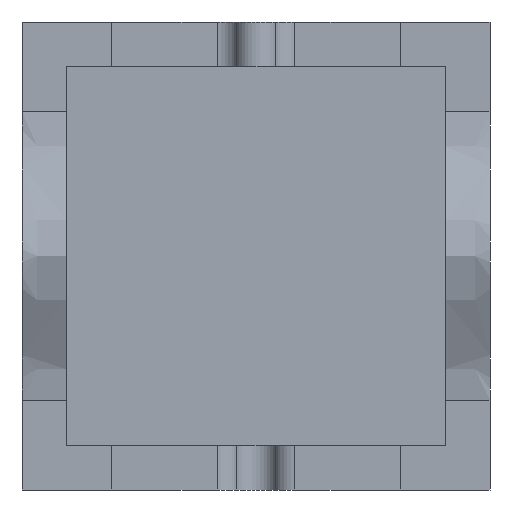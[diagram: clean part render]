
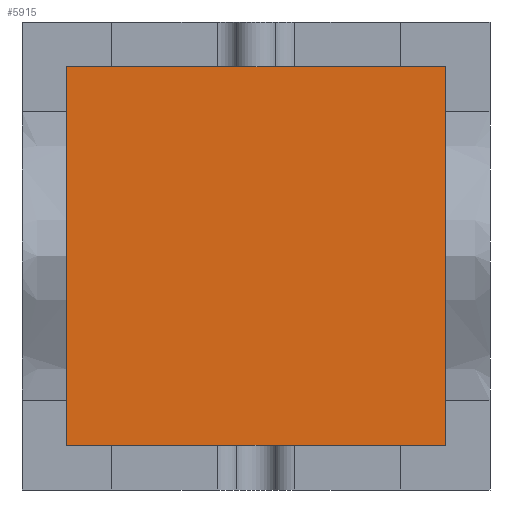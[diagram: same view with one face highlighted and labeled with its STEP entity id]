
A CAD part, front view. The second image highlights one B-rep face of the part: STEP entity #5915.
In plain terms, the highlighted planar face has unit normal (0, -1, 0).
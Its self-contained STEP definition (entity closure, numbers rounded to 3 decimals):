
#5789=CARTESIAN_POINT('Vertex',(-20.,-30.,-20.)) ;
#5794=CARTESIAN_POINT('Line Origine',(-20.,-30.,64.5)) ;
#5798=CARTESIAN_POINT('Vertex',(-20.,-30.,149.)) ;
#5825=CARTESIAN_POINT('Line Origine',(64.5,-30.,149.)) ;
#5829=CARTESIAN_POINT('Vertex',(149.,-30.,149.)) ;
#5856=CARTESIAN_POINT('Line Origine',(149.,-30.,64.5)) ;
#5860=CARTESIAN_POINT('Vertex',(149.,-30.,-20.)) ;
#5887=CARTESIAN_POINT('Line Origine',(64.5,-30.,-20.)) ;
#5904=CARTESIAN_POINT('Axis2P3D Location',(0.,-30.,0.)) ;
#5795=DIRECTION('Vector Direction',(0.,0.,-1.)) ;
#5826=DIRECTION('Vector Direction',(1.,0.,0.)) ;
#5857=DIRECTION('Vector Direction',(0.,0.,1.)) ;
#5888=DIRECTION('Vector Direction',(-1.,0.,0.)) ;
#5905=DIRECTION('Axis2P3D Direction',(0.,1.,0.)) ;
#5906=DIRECTION('Axis2P3D XDirection',(-1.,0.,0.)) ;
#5907=AXIS2_PLACEMENT_3D('Plane Axis2P3D',#5904,#5905,#5906) ;
#5910=ORIENTED_EDGE('',*,*,#5891,.F.) ;
#5911=ORIENTED_EDGE('',*,*,#5862,.F.) ;
#5912=ORIENTED_EDGE('',*,*,#5831,.F.) ;
#5913=ORIENTED_EDGE('',*,*,#5800,.F.) ;
#5796=VECTOR('Line Direction',#5795,1.) ;
#5827=VECTOR('Line Direction',#5826,1.) ;
#5858=VECTOR('Line Direction',#5857,1.) ;
#5889=VECTOR('Line Direction',#5888,1.) ;
#5915=ADVANCED_FACE('Cavity-molde',(#5914),#5908,.F.) ;
#5800=EDGE_CURVE('',#5790,#5799,#5797,.F.) ;
#5831=EDGE_CURVE('',#5799,#5830,#5828,.T.) ;
#5862=EDGE_CURVE('',#5830,#5861,#5859,.F.) ;
#5891=EDGE_CURVE('',#5861,#5790,#5890,.T.) ;
#5909=EDGE_LOOP('',(#5910,#5911,#5912,#5913)) ;
#5914=FACE_OUTER_BOUND('',#5909,.T.) ;
#5797=LINE('Line',#5794,#5796) ;
#5828=LINE('Line',#5825,#5827) ;
#5859=LINE('Line',#5856,#5858) ;
#5890=LINE('Line',#5887,#5889) ;
#5908=PLANE('',#5907) ;
#5790=VERTEX_POINT('',#5789) ;
#5799=VERTEX_POINT('',#5798) ;
#5830=VERTEX_POINT('',#5829) ;
#5861=VERTEX_POINT('',#5860) ;
